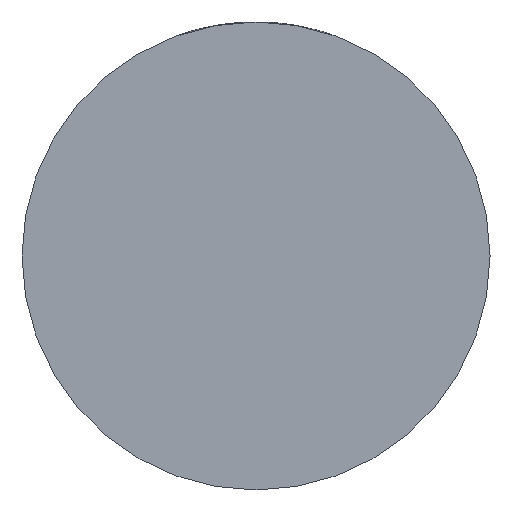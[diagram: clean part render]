
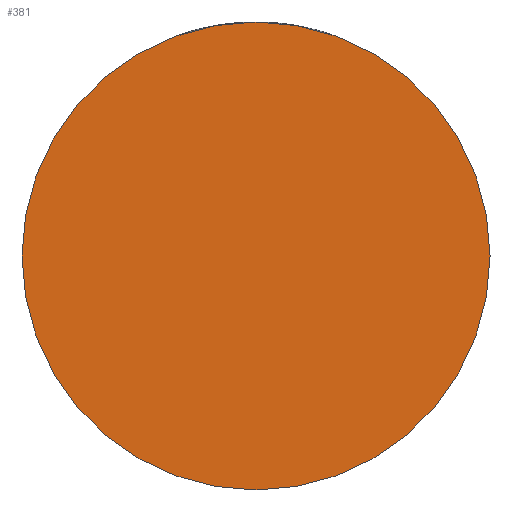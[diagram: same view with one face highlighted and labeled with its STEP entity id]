
A CAD part, front view. The second image highlights one B-rep face of the part: STEP entity #381.
In plain terms, the highlighted planar face has unit normal (0, -1, 0).
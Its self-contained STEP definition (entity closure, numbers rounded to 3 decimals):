
#144 = FACE_OUTER_BOUND ( 'NONE', #923, .T. ) ;
#290 = CIRCLE ( 'NONE', #2066, 26.5 ) ;
#372 = CARTESIAN_POINT ( 'NONE',  ( 0., -22., 0. ) ) ;
#381 = ADVANCED_FACE ( 'NONE', ( #144 ), #1477, .T. ) ;
#465 = EDGE_CURVE ( 'NONE', #3556, #2712, #1503, .T. ) ;
#535 = CARTESIAN_POINT ( 'NONE',  ( 0., -22., 0. ) ) ;
#598 = EDGE_CURVE ( 'NONE', #2712, #3556, #290, .T. ) ;
#923 = EDGE_LOOP ( 'NONE', ( #1067, #1896 ) ) ;
#994 = CARTESIAN_POINT ( 'NONE',  ( -26.5, -22., 0. ) ) ;
#1067 = ORIENTED_EDGE ( 'NONE', *, *, #598, .T. ) ;
#1099 = CARTESIAN_POINT ( 'NONE',  ( 26.5, -22., 0. ) ) ;
#1477 = PLANE ( 'NONE',  #1997 ) ;
#1503 = CIRCLE ( 'NONE', #3539, 26.5 ) ;
#1896 = ORIENTED_EDGE ( 'NONE', *, *, #465, .T. ) ;
#1899 = DIRECTION ( 'NONE',  ( 0., -1., 0. ) ) ;
#1997 = AXIS2_PLACEMENT_3D ( 'NONE', #535, #1899, #3233 ) ;
#1999 = DIRECTION ( 'NONE',  ( 0., -1., 0. ) ) ;
#2066 = AXIS2_PLACEMENT_3D ( 'NONE', #2328, #1999, #4324 ) ;
#2328 = CARTESIAN_POINT ( 'NONE',  ( 0., -22., 0. ) ) ;
#2676 = DIRECTION ( 'NONE',  ( 0., -1., 0. ) ) ;
#2712 = VERTEX_POINT ( 'NONE', #994 ) ;
#3233 = DIRECTION ( 'NONE',  ( 1., 0., 0. ) ) ;
#3419 = DIRECTION ( 'NONE',  ( 1., 0., 0. ) ) ;
#3539 = AXIS2_PLACEMENT_3D ( 'NONE', #372, #2676, #3419 ) ;
#3556 = VERTEX_POINT ( 'NONE', #1099 ) ;
#4324 = DIRECTION ( 'NONE',  ( 1., 0., 0. ) ) ;
